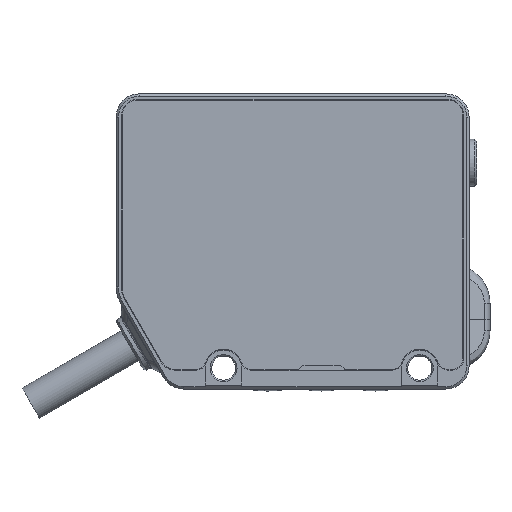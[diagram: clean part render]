
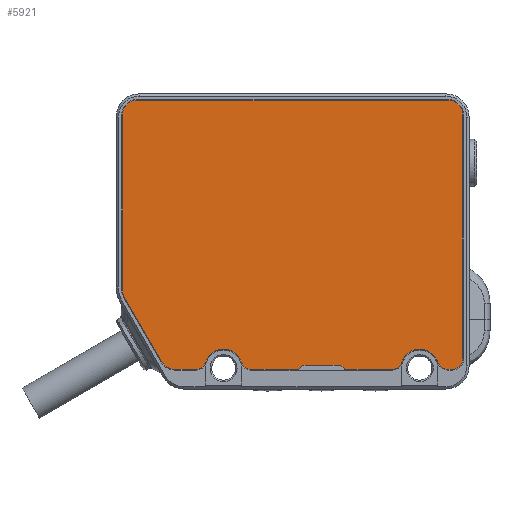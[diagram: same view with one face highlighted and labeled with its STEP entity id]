
A CAD part, left-side view. The second image highlights one B-rep face of the part: STEP entity #5921.
In plain terms, the highlighted planar face has unit normal (-1, 0, 0).
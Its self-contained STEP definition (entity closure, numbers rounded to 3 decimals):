
#3179=FACE_OUTER_BOUND('',#11755,.T.);
#5921=ADVANCED_FACE('',(#3179),#8856,.T.);
#8856=PLANE('',#54180);
#11755=EDGE_LOOP('',(#16218,#16219,#16220,#16221,#16222,#16223,#16224,#16225,
#16226,#16227,#16228,#16229,#16230,#16231,#16232,#16233,#16234,#16235,#16236,
#16237,#16238,#16239));
#15201=CIRCLE('',#54167,1.);
#15202=CIRCLE('',#54168,1.);
#15203=CIRCLE('',#54169,1.25);
#15204=CIRCLE('',#54170,2.45);
#15205=CIRCLE('',#54171,1.4);
#15206=CIRCLE('',#54172,1.4);
#15207=CIRCLE('',#54173,2.);
#15208=CIRCLE('',#54174,2.);
#15209=CIRCLE('',#54175,2.);
#15210=CIRCLE('',#54176,2.);
#15211=CIRCLE('',#54177,1.25);
#15212=CIRCLE('',#54178,2.45);
#15213=CIRCLE('',#54179,1.25);
#16218=ORIENTED_EDGE('',*,*,#35996,.F.);
#16219=ORIENTED_EDGE('',*,*,#35997,.T.);
#16220=ORIENTED_EDGE('',*,*,#35998,.F.);
#16221=ORIENTED_EDGE('',*,*,#35999,.T.);
#16222=ORIENTED_EDGE('',*,*,#36000,.F.);
#16223=ORIENTED_EDGE('',*,*,#36001,.T.);
#16224=ORIENTED_EDGE('',*,*,#36002,.F.);
#16225=ORIENTED_EDGE('',*,*,#36003,.T.);
#16226=ORIENTED_EDGE('',*,*,#36004,.T.);
#16227=ORIENTED_EDGE('',*,*,#36005,.T.);
#16228=ORIENTED_EDGE('',*,*,#36006,.F.);
#16229=ORIENTED_EDGE('',*,*,#36007,.T.);
#16230=ORIENTED_EDGE('',*,*,#36008,.F.);
#16231=ORIENTED_EDGE('',*,*,#36009,.T.);
#16232=ORIENTED_EDGE('',*,*,#36010,.F.);
#16233=ORIENTED_EDGE('',*,*,#36011,.T.);
#16234=ORIENTED_EDGE('',*,*,#36012,.F.);
#16235=ORIENTED_EDGE('',*,*,#36013,.T.);
#16236=ORIENTED_EDGE('',*,*,#36014,.F.);
#16237=ORIENTED_EDGE('',*,*,#36015,.T.);
#16238=ORIENTED_EDGE('',*,*,#36016,.F.);
#16239=ORIENTED_EDGE('',*,*,#36017,.T.);
#31030=VERTEX_POINT('',#70964);
#31031=VERTEX_POINT('',#70965);
#31032=VERTEX_POINT('',#70967);
#31033=VERTEX_POINT('',#70969);
#31034=VERTEX_POINT('',#70971);
#31035=VERTEX_POINT('',#70973);
#31036=VERTEX_POINT('',#70975);
#31037=VERTEX_POINT('',#70977);
#31038=VERTEX_POINT('',#70979);
#31039=VERTEX_POINT('',#70981);
#31040=VERTEX_POINT('',#70983);
#31041=VERTEX_POINT('',#70985);
#31042=VERTEX_POINT('',#70987);
#31043=VERTEX_POINT('',#70989);
#31044=VERTEX_POINT('',#70991);
#31045=VERTEX_POINT('',#70993);
#31046=VERTEX_POINT('',#70995);
#31047=VERTEX_POINT('',#70997);
#31048=VERTEX_POINT('',#70999);
#31049=VERTEX_POINT('',#71001);
#31050=VERTEX_POINT('',#71003);
#31051=VERTEX_POINT('',#71005);
#35996=EDGE_CURVE('',#31030,#31031,#43650,.T.);
#35997=EDGE_CURVE('',#31030,#31032,#15201,.T.);
#35998=EDGE_CURVE('',#31033,#31032,#43651,.T.);
#35999=EDGE_CURVE('',#31033,#31034,#15202,.T.);
#36000=EDGE_CURVE('',#31035,#31034,#43652,.T.);
#36001=EDGE_CURVE('',#31035,#31036,#15203,.T.);
#36002=EDGE_CURVE('',#31037,#31036,#15204,.T.);
#36003=EDGE_CURVE('',#31037,#31038,#15205,.T.);
#36004=EDGE_CURVE('',#31038,#31039,#43653,.T.);
#36005=EDGE_CURVE('',#31039,#31040,#15206,.T.);
#36006=EDGE_CURVE('',#31041,#31040,#43654,.T.);
#36007=EDGE_CURVE('',#31041,#31042,#15207,.T.);
#36008=EDGE_CURVE('',#31043,#31042,#43655,.T.);
#36009=EDGE_CURVE('',#31043,#31044,#15208,.T.);
#36010=EDGE_CURVE('',#31045,#31044,#43656,.T.);
#36011=EDGE_CURVE('',#31045,#31046,#15209,.T.);
#36012=EDGE_CURVE('',#31047,#31046,#43657,.T.);
#36013=EDGE_CURVE('',#31047,#31048,#15210,.T.);
#36014=EDGE_CURVE('',#31049,#31048,#43658,.T.);
#36015=EDGE_CURVE('',#31049,#31050,#15211,.T.);
#36016=EDGE_CURVE('',#31051,#31050,#15212,.T.);
#36017=EDGE_CURVE('',#31051,#31031,#15213,.T.);
#43650=LINE('',#70963,#48859);
#43651=LINE('',#70968,#48860);
#43652=LINE('',#70972,#48861);
#43653=LINE('',#70980,#48862);
#43654=LINE('',#70984,#48863);
#43655=LINE('',#70988,#48864);
#43656=LINE('',#70992,#48865);
#43657=LINE('',#70996,#48866);
#43658=LINE('',#71000,#48867);
#48859=VECTOR('',#58035,1.);
#48860=VECTOR('',#58038,1.);
#48861=VECTOR('',#58041,1.);
#48862=VECTOR('',#58048,1.);
#48863=VECTOR('',#58051,1.);
#48864=VECTOR('',#58054,1.);
#48865=VECTOR('',#58057,1.);
#48866=VECTOR('',#58060,1.);
#48867=VECTOR('',#58063,1.);
#54167=AXIS2_PLACEMENT_3D('',#70966,#58036,#58037);
#54168=AXIS2_PLACEMENT_3D('',#70970,#58039,#58040);
#54169=AXIS2_PLACEMENT_3D('',#70974,#58042,#58043);
#54170=AXIS2_PLACEMENT_3D('',#70976,#58044,#58045);
#54171=AXIS2_PLACEMENT_3D('',#70978,#58046,#58047);
#54172=AXIS2_PLACEMENT_3D('',#70982,#58049,#58050);
#54173=AXIS2_PLACEMENT_3D('',#70986,#58052,#58053);
#54174=AXIS2_PLACEMENT_3D('',#70990,#58055,#58056);
#54175=AXIS2_PLACEMENT_3D('',#70994,#58058,#58059);
#54176=AXIS2_PLACEMENT_3D('',#70998,#58061,#58062);
#54177=AXIS2_PLACEMENT_3D('',#71002,#58064,#58065);
#54178=AXIS2_PLACEMENT_3D('',#71004,#58066,#58067);
#54179=AXIS2_PLACEMENT_3D('',#71006,#58068,#58069);
#54180=AXIS2_PLACEMENT_3D('',#71007,#58070,#58071);
#58035=DIRECTION('',(0.,1.,0.));
#58036=DIRECTION('',(1.,0.,0.));
#58037=DIRECTION('',(0.,0.,1.));
#58038=DIRECTION('',(0.,1.,0.));
#58039=DIRECTION('',(1.,0.,0.));
#58040=DIRECTION('',(0.,0.,1.));
#58041=DIRECTION('',(0.,1.,0.));
#58042=DIRECTION('',(-1.,0.,0.));
#58043=DIRECTION('',(0.,0.,1.));
#58044=DIRECTION('',(-1.,0.,0.));
#58045=DIRECTION('',(0.,0.,1.));
#58046=DIRECTION('',(-1.,0.,0.));
#58047=DIRECTION('',(0.,0.,1.));
#58048=DIRECTION('',(0.,-1.,0.));
#58049=DIRECTION('',(-1.,0.,0.));
#58050=DIRECTION('',(0.,0.,1.));
#58051=DIRECTION('',(0.,0.,-1.));
#58052=DIRECTION('',(-1.,0.,0.));
#58053=DIRECTION('',(0.,0.,1.));
#58054=DIRECTION('',(0.,-1.,0.));
#58055=DIRECTION('',(-1.,0.,0.));
#58056=DIRECTION('',(0.,0.,1.));
#58057=DIRECTION('',(0.,0.,1.));
#58058=DIRECTION('',(-1.,0.,0.));
#58059=DIRECTION('',(0.,0.,1.));
#58060=DIRECTION('',(0.,0.5,0.866));
#58061=DIRECTION('',(-1.,0.,0.));
#58062=DIRECTION('',(0.,0.,1.));
#58063=DIRECTION('',(0.,1.,0.));
#58064=DIRECTION('',(-1.,0.,0.));
#58065=DIRECTION('',(0.,0.,1.));
#58066=DIRECTION('',(-1.,0.,0.));
#58067=DIRECTION('',(0.,0.,1.));
#58068=DIRECTION('',(-1.,0.,0.));
#58069=DIRECTION('',(0.,0.,1.));
#58070=DIRECTION('',(-1.,0.,0.));
#58071=DIRECTION('',(0.,0.,1.));
#70963=CARTESIAN_POINT('',(-13.999,26.89,-14.003));
#70964=CARTESIAN_POINT('',(-13.999,6.081,-14.003));
#70965=CARTESIAN_POINT('',(-13.999,12.248,-14.003));
#70966=CARTESIAN_POINT('',(-13.999,5.215,-14.503));
#70967=CARTESIAN_POINT('',(-13.999,5.215,-13.503));
#70968=CARTESIAN_POINT('',(-13.999,26.89,-13.503));
#70969=CARTESIAN_POINT('',(-13.999,0.947,-13.503));
#70970=CARTESIAN_POINT('',(-13.999,0.947,-14.503));
#70971=CARTESIAN_POINT('',(-13.999,0.081,-14.003));
#70972=CARTESIAN_POINT('',(-13.999,26.89,-14.003));
#70973=CARTESIAN_POINT('',(-13.999,-6.086,-14.003));
#70974=CARTESIAN_POINT('',(-13.999,-6.086,-12.753));
#70975=CARTESIAN_POINT('',(-13.999,-7.28,-13.125));
#70976=CARTESIAN_POINT('',(-13.999,-9.619,-13.853));
#70977=CARTESIAN_POINT('',(-13.999,-11.936,-13.058));
#70978=CARTESIAN_POINT('',(-13.999,-13.26,-12.603));
#70979=CARTESIAN_POINT('',(-13.999,-13.26,-14.003));
#70980=CARTESIAN_POINT('',(-13.999,26.89,-14.003));
#70981=CARTESIAN_POINT('',(-13.999,-13.81,-14.003));
#70982=CARTESIAN_POINT('',(-13.999,-13.81,-12.603));
#70983=CARTESIAN_POINT('',(-13.999,-15.21,-12.603));
#70984=CARTESIAN_POINT('',(-13.999,-15.21,-8.171));
#70985=CARTESIAN_POINT('',(-13.999,-15.21,18.847));
#70986=CARTESIAN_POINT('',(-13.999,-13.21,18.847));
#70987=CARTESIAN_POINT('',(-13.999,-13.21,20.847));
#70988=CARTESIAN_POINT('',(-13.999,26.89,20.847));
#70989=CARTESIAN_POINT('',(-13.999,26.89,20.847));
#70990=CARTESIAN_POINT('',(-13.999,26.89,18.847));
#70991=CARTESIAN_POINT('',(-13.999,28.89,18.847));
#70992=CARTESIAN_POINT('',(-13.999,28.89,-8.171));
#70993=CARTESIAN_POINT('',(-13.999,28.89,-3.664));
#70994=CARTESIAN_POINT('',(-13.999,26.89,-3.664));
#70995=CARTESIAN_POINT('',(-13.999,28.622,-4.664));
#70996=CARTESIAN_POINT('',(-13.999,26.67,-8.044));
#70997=CARTESIAN_POINT('',(-13.999,23.807,-13.003));
#70998=CARTESIAN_POINT('',(-13.999,22.075,-12.003));
#70999=CARTESIAN_POINT('',(-13.999,22.075,-14.003));
#71000=CARTESIAN_POINT('',(-13.999,26.89,-14.003));
#71001=CARTESIAN_POINT('',(-13.999,19.314,-14.003));
#71002=CARTESIAN_POINT('',(-13.999,19.314,-12.753));
#71003=CARTESIAN_POINT('',(-13.999,18.12,-13.125));
#71004=CARTESIAN_POINT('',(-13.999,15.781,-13.853));
#71005=CARTESIAN_POINT('',(-13.999,13.442,-13.125));
#71006=CARTESIAN_POINT('',(-13.999,12.248,-12.753));
#71007=CARTESIAN_POINT('',(-13.999,26.89,-8.171));
